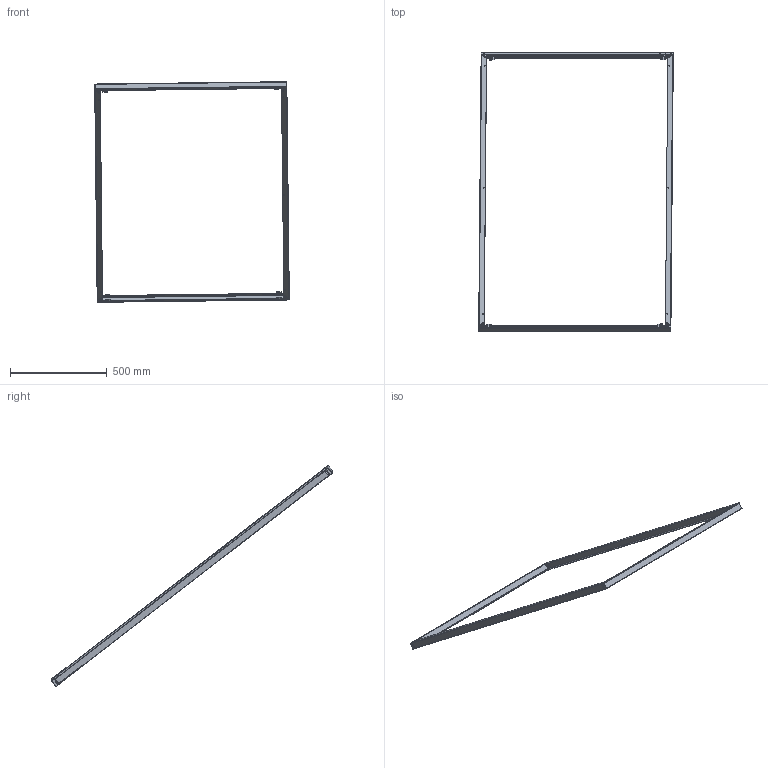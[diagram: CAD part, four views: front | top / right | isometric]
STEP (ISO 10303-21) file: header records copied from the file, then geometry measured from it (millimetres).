
FILE_DESCRIPTION (( 'STEP AP203' ), '1' );
FILE_NAME ('CJDN1810R5_V0.STEP', '2018-03-02T12:14:15', ( '' ), ( '' ), 'SwSTEP 2.0', 'SolidWorks 2017', '' );
FILE_SCHEMA (( 'CONFIG_CONTROL_DESIGN' ));
Length unit declared in the file: millimetre
Products named in the file (7): 9503-0125 Top cover; 9503-0126 Side cover; 9503-0126 Side cover_-01; 9503-0125 Top cover_-03; CJDN1810R5_V0
Assembly tree (4 placements, depth 2):
  9503-0125 Top cover
  9503-0126 Side cover
  9503-0125 Top cover
  CJDN1810R5_V0
    9503-0126 Side cover_-01  x2
    9503-0125 Top cover_-03  x2
  9503-0126 Side cover
Bounding box: 1005.86 x 1448.78 x 1140.3 mm (x, y, z)
Volume: 637499.9 mm3; surface area: 869187.6 mm2
Topology: 4 solids, 4 shells, 566 faces, 1354 edges, 796 vertices
Faces by surface type: plane 356, cylinder 170, bspline 40
Entity records: 9336 total; most frequent: CARTESIAN_POINT 2248, ORIENTED_EDGE 1354, DIRECTION 1297, EDGE_CURVE 677, VECTOR 495, LINE 495, AXIS2_PLACEMENT_3D 401, VERTEX_POINT 398
